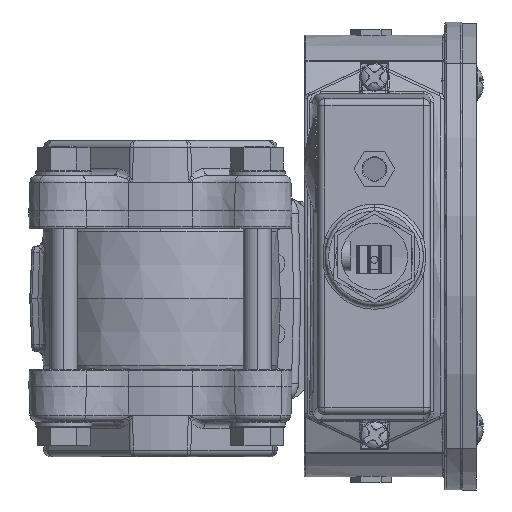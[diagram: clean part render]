
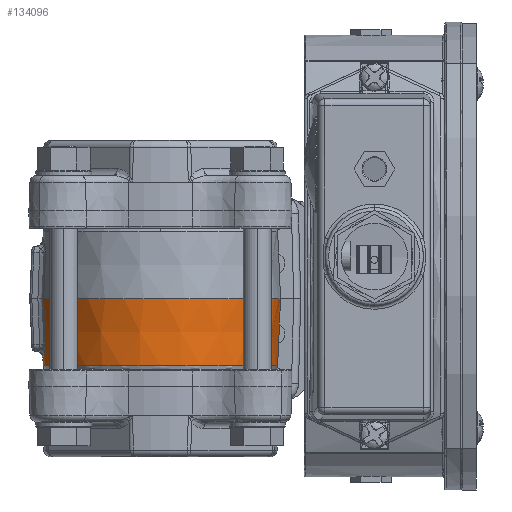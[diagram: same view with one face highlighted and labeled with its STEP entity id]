
A CAD part, front view. The second image highlights one B-rep face of the part: STEP entity #134096.
In plain terms, the highlighted conical face has half-angle 2.5 degrees and reference radius 34.25 mm.
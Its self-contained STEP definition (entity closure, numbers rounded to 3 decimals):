
#20 = CARTESIAN_POINT ( 'NONE',  ( 0., 0., 0. ) ) ;
#124 = CARTESIAN_POINT ( 'NONE',  ( 33.225, -4.474, 16.645 ) ) ;
#651 = CARTESIAN_POINT ( 'NONE',  ( 33.329, -3.518, 16.879 ) ) ;
#1647 = CARTESIAN_POINT ( 'NONE',  ( 32.985, -6.263, 15.471 ) ) ;
#3655 = ORIENTED_EDGE ( 'NONE', *, *, #65363, .T. ) ;
#3954 = ORIENTED_EDGE ( 'NONE', *, *, #34543, .T. ) ;
#4658 = CARTESIAN_POINT ( 'NONE',  ( 32.822, -7.43, 13.678 ) ) ;
#5136 = CARTESIAN_POINT ( 'NONE',  ( 32.859, -7.161, 14.19 ) ) ;
#5616 = CARTESIAN_POINT ( 'NONE',  ( 32.898, -6.882, 14.679 ) ) ;
#6835 = CARTESIAN_POINT ( 'NONE',  ( 33.389, -2.866, 16.913 ) ) ;
#8395 = B_SPLINE_CURVE_WITH_KNOTS ( 'NONE', 3,
 ( #148478, #78270, #89986, #147979 ),
 .UNSPECIFIED., .F., .F.,
 ( 4, 4 ),
 ( 0., 1. ),
 .UNSPECIFIED. ) ;
#8831 = CARTESIAN_POINT ( 'NONE',  ( 0., 0., 19.087 ) ) ;
#9897 = CARTESIAN_POINT ( 'NONE',  ( -33.417, 0., 19.087 ) ) ;
#10085 = DIRECTION ( 'NONE',  ( 0., 0., 1. ) ) ;
#10196 = CARTESIAN_POINT ( 'NONE',  ( 33.512, 0., 16.913 ) ) ;
#11338 = EDGE_LOOP ( 'NONE', ( #45250, #40231, #3954, #67107, #3655, #24013, #121837, #138659 ) ) ;
#12265 = CARTESIAN_POINT ( 'NONE',  ( 33.361, -3.193, 16.913 ) ) ;
#13798 = VERTEX_POINT ( 'NONE', #143669 ) ;
#16317 = CARTESIAN_POINT ( 'NONE',  ( 32.841, -7.295, 13.944 ) ) ;
#18349 = EDGE_CURVE ( 'NONE', #13798, #140486, #104958, .T. ) ;
#23008 = CARTESIAN_POINT ( 'NONE',  ( 33.07, -5.666, 15.999 ) ) ;
#23520 = CARTESIAN_POINT ( 'NONE',  ( 33.041, -5.869, 15.842 ) ) ;
#24013 = ORIENTED_EDGE ( 'NONE', *, *, #36676, .T. ) ;
#27028 = CARTESIAN_POINT ( 'NONE',  ( 32.802, -7.58, 13.37 ) ) ;
#28014 = AXIS2_PLACEMENT_3D ( 'NONE', #8831, #32743, #45436 ) ;
#28022 = CARTESIAN_POINT ( 'NONE',  ( 32.864, -7.13, 14.246 ) ) ;
#28514 = CARTESIAN_POINT ( 'NONE',  ( 32.784, -7.712, 13.087 ) ) ;
#30644 = B_SPLINE_CURVE_WITH_KNOTS ( 'NONE', 3,
 ( #28514, #120022, #27028, #108333, #144460, #86515, #74307, #75296, #4658, #110325, #16317, #97733, #5136, #121028, #28022, #50385, #5616, #38798, #109337 ),
 .UNSPECIFIED., .F., .F.,
 ( 4, 1, 1, 1, 1, 2, 2, 1, 1, 1, 2, 2, 4 ),
 ( 0., 0.125, 0.188, 0.219, 0.234, 0.242, 0.25, 0.375, 0.438, 0.469, 0.484, 0.5, 1. ),
 .UNSPECIFIED. ) ;
#32641 = LINE ( 'NONE', #57472, #132747 ) ;
#32743 = DIRECTION ( 'NONE',  ( 0., 0., -1. ) ) ;
#34385 = VECTOR ( 'NONE', #38758, 1000. ) ;
#34543 = EDGE_CURVE ( 'NONE', #35529, #13798, #132737, .T. ) ;
#34701 = CARTESIAN_POINT ( 'NONE',  ( 33.14, -5.148, 16.331 ) ) ;
#35529 = VERTEX_POINT ( 'NONE', #9897 ) ;
#36676 = EDGE_CURVE ( 'NONE', #98826, #79133, #30644, .T. ) ;
#36749 = CARTESIAN_POINT ( 'NONE',  ( 33.065, -5.702, 15.972 ) ) ;
#38758 = DIRECTION ( 'NONE',  ( -0.044, 0., -0.999 ) ) ;
#38798 = CARTESIAN_POINT ( 'NONE',  ( 32.933, -6.633, 15.038 ) ) ;
#40231 = ORIENTED_EDGE ( 'NONE', *, *, #63133, .T. ) ;
#44175 = FACE_OUTER_BOUND ( 'NONE', #11338, .T. ) ;
#45250 = ORIENTED_EDGE ( 'NONE', *, *, #64115, .F. ) ;
#45436 = DIRECTION ( 'NONE',  ( -1., 0., 0. ) ) ;
#45942 = EDGE_CURVE ( 'NONE', #79133, #148866, #80858, .T. ) ;
#46381 = CARTESIAN_POINT ( 'NONE',  ( 33.111, -5.363, 16.208 ) ) ;
#49420 = CARTESIAN_POINT ( 'NONE',  ( 33.28, -8.092, 0. ) ) ;
#50385 = CARTESIAN_POINT ( 'NONE',  ( 32.864, -7.124, 14.255 ) ) ;
#57472 = CARTESIAN_POINT ( 'NONE',  ( 34.25, 0., 0. ) ) ;
#59776 = DIRECTION ( 'NONE',  ( -1., 0., 0. ) ) ;
#61590 = CARTESIAN_POINT ( 'NONE',  ( 33.417, 0., 19.087 ) ) ;
#63133 = EDGE_CURVE ( 'NONE', #134606, #35529, #125854, .T. ) ;
#64115 = EDGE_CURVE ( 'NONE', #134606, #119333, #32641, .T. ) ;
#65363 = EDGE_CURVE ( 'NONE', #140486, #98826, #8395, .T. ) ;
#67107 = ORIENTED_EDGE ( 'NONE', *, *, #18349, .T. ) ;
#69738 = CARTESIAN_POINT ( 'NONE',  ( 33.168, -4.927, 16.444 ) ) ;
#70248 = CARTESIAN_POINT ( 'NONE',  ( 33.261, -4.162, 16.744 ) ) ;
#72465 = CARTESIAN_POINT ( 'NONE',  ( 0., 0., 0. ) ) ;
#72758 = CARTESIAN_POINT ( 'NONE',  ( -34.25, 0., 0. ) ) ;
#74307 = CARTESIAN_POINT ( 'NONE',  ( 32.821, -7.437, 13.664 ) ) ;
#75296 = CARTESIAN_POINT ( 'NONE',  ( 32.822, -7.432, 13.675 ) ) ;
#78270 = CARTESIAN_POINT ( 'NONE',  ( 33.115, -7.964, 4.362 ) ) ;
#79133 = VERTEX_POINT ( 'NONE', #148686 ) ;
#79603 = AXIS2_PLACEMENT_3D ( 'NONE', #20, #106754, #94127 ) ;
#80858 = B_SPLINE_CURVE_WITH_KNOTS ( 'NONE', 3,
 ( #92689, #1647, #129290, #82987, #23520, #94727, #36749, #23008, #128282, #46381, #34701, #139447, #69738, #81984, #124, #70248, #651, #12265, #117001 ),
 .UNSPECIFIED., .F., .F.,
 ( 4, 2, 1, 2, 2, 2, 2, 2, 2, 4 ),
 ( 0., 0.125, 0.187, 0.219, 0.25, 0.375, 0.438, 0.5, 0.75, 1. ),
 .UNSPECIFIED. ) ;
#81984 = CARTESIAN_POINT ( 'NONE',  ( 33.178, -4.85, 16.481 ) ) ;
#82987 = CARTESIAN_POINT ( 'NONE',  ( 33.028, -5.964, 15.759 ) ) ;
#84197 = DIRECTION ( 'NONE',  ( 0., 0., -1. ) ) ;
#86515 = CARTESIAN_POINT ( 'NONE',  ( 32.82, -7.445, 13.649 ) ) ;
#89986 = CARTESIAN_POINT ( 'NONE',  ( 32.95, -7.838, 8.725 ) ) ;
#91947 = AXIS2_PLACEMENT_3D ( 'NONE', #126540, #10085, #138250 ) ;
#92689 = CARTESIAN_POINT ( 'NONE',  ( 32.97, -6.37, 15.345 ) ) ;
#94127 = DIRECTION ( 'NONE',  ( -1., 0., 0. ) ) ;
#94727 = CARTESIAN_POINT ( 'NONE',  ( 33.055, -5.769, 15.921 ) ) ;
#97733 = CARTESIAN_POINT ( 'NONE',  ( 32.853, -7.205, 14.11 ) ) ;
#98826 = VERTEX_POINT ( 'NONE', #144351 ) ;
#104958 = CIRCLE ( 'NONE', #79603, 34.25 ) ;
#106754 = DIRECTION ( 'NONE',  ( 0., 0., 1. ) ) ;
#108333 = CARTESIAN_POINT ( 'NONE',  ( 32.813, -7.5, 13.536 ) ) ;
#109337 = CARTESIAN_POINT ( 'NONE',  ( 32.97, -6.37, 15.345 ) ) ;
#110325 = CARTESIAN_POINT ( 'NONE',  ( 32.83, -7.374, 13.791 ) ) ;
#116386 = DIRECTION ( 'NONE',  ( 0.044, 0., -0.999 ) ) ;
#117001 = CARTESIAN_POINT ( 'NONE',  ( 33.389, -2.866, 16.913 ) ) ;
#119333 = VERTEX_POINT ( 'NONE', #10196 ) ;
#120022 = CARTESIAN_POINT ( 'NONE',  ( 32.791, -7.657, 13.206 ) ) ;
#121028 = CARTESIAN_POINT ( 'NONE',  ( 32.862, -7.142, 14.224 ) ) ;
#121837 = ORIENTED_EDGE ( 'NONE', *, *, #45942, .T. ) ;
#125854 = CIRCLE ( 'NONE', #28014, 33.417 ) ;
#126540 = CARTESIAN_POINT ( 'NONE',  ( 0., 0., 16.913 ) ) ;
#127228 = CIRCLE ( 'NONE', #91947, 33.512 ) ;
#128282 = CARTESIAN_POINT ( 'NONE',  ( 33.092, -5.501, 16.119 ) ) ;
#129290 = CARTESIAN_POINT ( 'NONE',  ( 33.002, -6.148, 15.59 ) ) ;
#131605 = CONICAL_SURFACE ( 'NONE', #138926, 34.25, 0.044 ) ;
#131840 = EDGE_CURVE ( 'NONE', #148866, #119333, #127228, .T. ) ;
#132737 = LINE ( 'NONE', #72758, #34385 ) ;
#132747 = VECTOR ( 'NONE', #116386, 1000. ) ;
#134096 = ADVANCED_FACE ( 'NONE', ( #44175 ), #131605, .T. ) ;
#134606 = VERTEX_POINT ( 'NONE', #61590 ) ;
#138250 = DIRECTION ( 'NONE',  ( -1., 0., 0. ) ) ;
#138659 = ORIENTED_EDGE ( 'NONE', *, *, #131840, .T. ) ;
#138926 = AXIS2_PLACEMENT_3D ( 'NONE', #72465, #84197, #59776 ) ;
#139447 = CARTESIAN_POINT ( 'NONE',  ( 33.149, -5.075, 16.37 ) ) ;
#140486 = VERTEX_POINT ( 'NONE', #49420 ) ;
#143669 = CARTESIAN_POINT ( 'NONE',  ( -34.25, 0., 0. ) ) ;
#144351 = CARTESIAN_POINT ( 'NONE',  ( 32.784, -7.712, 13.087 ) ) ;
#144460 = CARTESIAN_POINT ( 'NONE',  ( 32.818, -7.463, 13.612 ) ) ;
#147979 = CARTESIAN_POINT ( 'NONE',  ( 32.784, -7.712, 13.087 ) ) ;
#148478 = CARTESIAN_POINT ( 'NONE',  ( 33.28, -8.092, 0. ) ) ;
#148686 = CARTESIAN_POINT ( 'NONE',  ( 32.97, -6.37, 15.345 ) ) ;
#148866 = VERTEX_POINT ( 'NONE', #6835 ) ;
